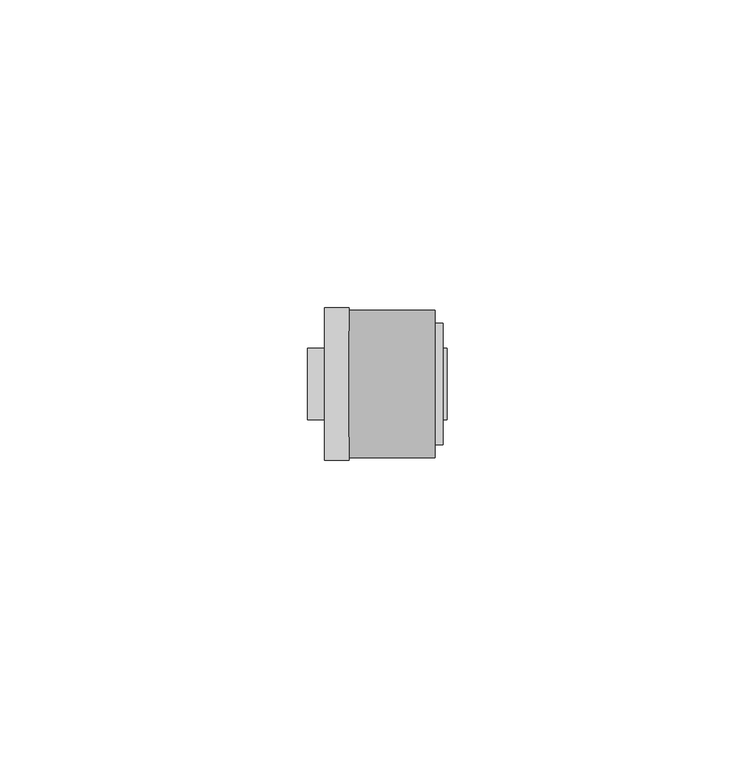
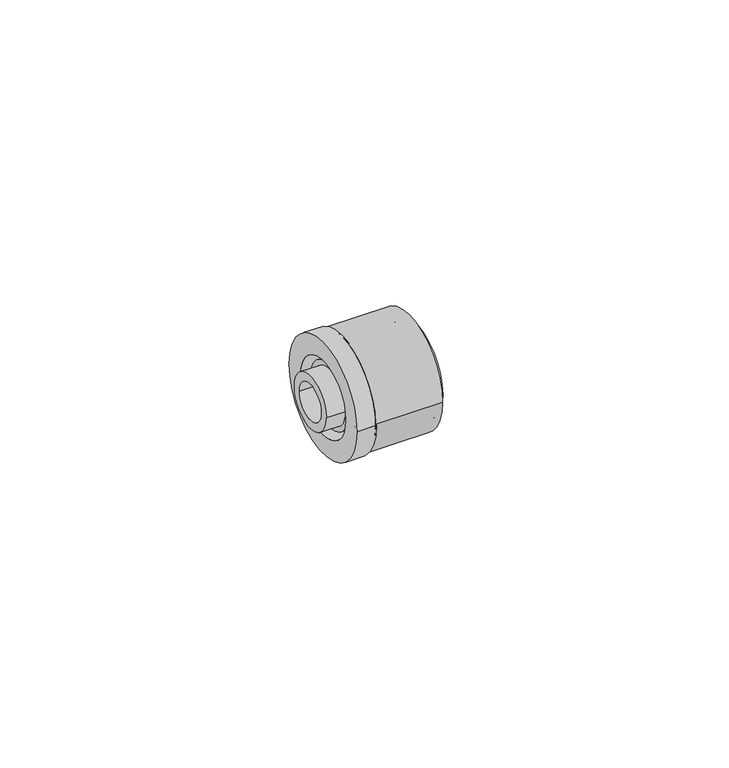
"""IFC4 building model written with IfcOpenShell, lengths in millimetres: pipe fitting geometry, FASTLOC_Blanking plug LX : FSL Bp LX CZ."""

import ifcopenshell
import ifcopenshell.guid

model = None  # the IFC model being written
_history = None  # IfcOwnerHistory: only IFC2X3 demands one
_inside = {}  # id of a spatial element -> (the spatial element, [elements in it])
_under = {}  # id of a project, library or spatial element -> (it, [spatial elements below it])
_declared = {}  # id of a project -> (the project, [libraries it declares])
_typed = {}  # id of a type object -> (the type object, [elements of that type])
_made_of = {}  # id of a material, layer set ... -> (it, [elements and type objects made of it])


def new_model(schema):
    """Start an empty IFC model of exactly this schema.

    Asked for "IFC4X3", IfcOpenShell would pick the latest addendum, in which some entities
    have other attributes; the version numbers below select the first issue.
    IFC2X3 requires an IfcOwnerHistory on every rooted entity: one is made here for all.
    """
    global model, _history
    if schema == "IFC4X3":
        model = ifcopenshell.file(schema_version=(4, 3, 0, 0))
    else:
        model = ifcopenshell.file(schema=schema)
    _inside.clear()
    _under.clear()
    _declared.clear()
    _typed.clear()
    _made_of.clear()
    _history = None
    if model.schema == "IFC2X3":
        org = make("IfcOrganization", Name="unknown")
        user = make(
            "IfcPersonAndOrganization",
            ThePerson=make("IfcPerson", FamilyName="unknown"),
            TheOrganization=org,
        )
        app = make(
            "IfcApplication",
            ApplicationDeveloper=org,
            Version="unknown",
            ApplicationFullName="unknown",
            ApplicationIdentifier="unknown",
        )
        _history = make(
            "IfcOwnerHistory",
            OwningUser=user,
            OwningApplication=app,
            ChangeAction="ADDED",
            CreationDate=0,
        )
    return model


def make(cls, **values):
    """One entity of the class cls with the attributes given. An attribute that is None is left unset."""
    return model.create_entity(
        cls, **{name: value for name, value in values.items() if value is not None}
    )


def rooted(cls, **values):
    """An entity with a GlobalId (a new one), such as an element, a storey or a relation."""
    return make(cls, GlobalId=ifcopenshell.guid.new(), OwnerHistory=_history, **values)


def si_unit(unit_type, name, prefix=None):
    """IfcSIUnit, for example si_unit("LENGTHUNIT", "METRE", prefix="MILLI")."""
    return make("IfcSIUnit", UnitType=unit_type, Prefix=prefix, Name=name)


def assignment(units):
    """IfcUnitAssignment: the units of a project."""
    return None if units is None else make("IfcUnitAssignment", Units=units)


def point(xyz):
    """IfcCartesianPoint."""
    return None if xyz is None else make("IfcCartesianPoint", Coordinates=xyz)


def direction(xyz):
    """IfcDirection."""
    return None if xyz is None else make("IfcDirection", DirectionRatios=xyz)


def frame(location, z_axis=None, x_axis=None):
    """IfcAxis2Placement3D, a coordinate frame: its origin and axes. An axis left out is left unset."""
    return make(
        "IfcAxis2Placement3D",
        Location=point(location),
        Axis=direction(z_axis),
        RefDirection=direction(x_axis),
    )


def frame_2d(location, x_axis=None):
    """IfcAxis2Placement2D, a coordinate frame in the plane: its origin and x axis."""
    return make(
        "IfcAxis2Placement2D", Location=point(location), RefDirection=direction(x_axis)
    )


def origin():
    """The frame at (0, 0, 0) with its axes left unset."""
    return frame((0.0, 0.0, 0.0))


def origin_2d():
    """The frame at (0, 0) in the plane with its x axis left unset."""
    return frame_2d((0.0, 0.0))


def place(relative_to, where):
    """IfcLocalPlacement: puts the frame where relative to a parent placement (None: the world)."""
    return make(
        "IfcLocalPlacement", PlacementRelTo=relative_to, RelativePlacement=where
    )


def context(
    kind, dimensions, precision=None, world=None, true_north=None, identifier=None
):
    """IfcGeometricRepresentationContext, for example the 3D "Model" context."""
    return make(
        "IfcGeometricRepresentationContext",
        ContextIdentifier=identifier,
        ContextType=kind,
        CoordinateSpaceDimension=dimensions,
        Precision=precision,
        WorldCoordinateSystem=world,
        TrueNorth=true_north,
    )


def project(units=None, contexts=None):
    """IfcProject with its units and contexts."""
    return rooted(
        "IfcProject",
        Name="project",
        RepresentationContexts=contexts,
        UnitsInContext=assignment(units),
    )


def spatial(cls, under=None, at=None, **own):
    """A site, building, storey or space (cls), placed at a placement, below another one or the project."""
    s = rooted(cls, ObjectPlacement=at, **own)
    if under is not None:
        _under.setdefault(under.id(), (under, []))[1].append(s)
    return s


def polyline(points):
    """IfcPolyline through the points."""
    return make("IfcPolyline", Points=[point(p) for p in points])


def circle_curve(where, radius):
    """IfcCircle in the frame where."""
    return make("IfcCircle", Position=where, Radius=radius)


def trimmed(basis, trim1, trim2, sense, master):
    """IfcTrimmedCurve: the piece of a basis curve between two trims."""
    return make(
        "IfcTrimmedCurve",
        BasisCurve=basis,
        Trim1=trim1,
        Trim2=trim2,
        SenseAgreement=sense,
        MasterRepresentation=master,
    )


def segment(curve, same_sense, transition):
    """IfcCompositeCurveSegment."""
    return make(
        "IfcCompositeCurveSegment",
        Transition=transition,
        SameSense=same_sense,
        ParentCurve=curve,
    )


def composite_curve(segments, self_intersect=None):
    """IfcCompositeCurve: segments joined end to end."""
    return make("IfcCompositeCurve", Segments=segments, SelfIntersect=self_intersect)


def outline(outer, holes=None, kind="AREA"):
    """IfcArbitraryClosedProfileDef: a profile drawn as a closed curve; with holes, ...WithVoids."""
    if holes is None:
        return make("IfcArbitraryClosedProfileDef", ProfileType=kind, OuterCurve=outer)
    return make(
        "IfcArbitraryProfileDefWithVoids",
        ProfileType=kind,
        OuterCurve=outer,
        InnerCurves=holes,
    )


def extrude(swept, where, along, depth):
    """IfcExtrudedAreaSolid: the profile swept, set in the frame where, extruded along a direction by depth."""
    return make(
        "IfcExtrudedAreaSolid",
        SweptArea=swept,
        Position=where,
        ExtrudedDirection=direction(along),
        Depth=depth,
    )


def shape(context_of_items, identifier, shape_type, items):
    """IfcShapeRepresentation: the items that make up one representation, for example the "Body"."""
    return make(
        "IfcShapeRepresentation",
        ContextOfItems=context_of_items,
        RepresentationIdentifier=identifier,
        RepresentationType=shape_type,
        Items=items,
    )


def source(mapping_origin, context_of_items, identifier, shape_type, items):
    """IfcRepresentationMap: a shape defined once, which mapped items show again and again."""
    return make(
        "IfcRepresentationMap",
        MappingOrigin=mapping_origin,
        MappedRepresentation=shape(context_of_items, identifier, shape_type, items),
    )


def transform(
    local_origin,
    x_axis=None,
    y_axis=None,
    z_axis=None,
    scale=None,
    scale2=None,
    scale3=None,
    uniform=True,
):
    """IfcCartesianTransformationOperator3D, or its non-uniform kind. x_axis, y_axis, z_axis: its Axis1, 2, 3."""
    if uniform:
        return make(
            "IfcCartesianTransformationOperator3D",
            Axis1=direction(x_axis),
            Axis2=direction(y_axis),
            LocalOrigin=point(local_origin),
            Scale=scale,
            Axis3=direction(z_axis),
        )
    return make(
        "IfcCartesianTransformationOperator3DnonUniform",
        Axis1=direction(x_axis),
        Axis2=direction(y_axis),
        LocalOrigin=point(local_origin),
        Scale=scale,
        Axis3=direction(z_axis),
        Scale2=scale2,
        Scale3=scale3,
    )


def mapped(mapping_source, mapping_target):
    """IfcMappedItem: shows the shape of a source again, moved by a transform."""
    return make(
        "IfcMappedItem", MappingSource=mapping_source, MappingTarget=mapping_target
    )


def made_of(thing, what):
    """Note that an element or type object is made of a material, layer set ...; save() writes the relation."""
    if what is not None:
        _made_of.setdefault(what.id(), (what, []))[1].append(thing)
    return thing


def element(
    cls,
    number,
    at=None,
    inside=None,
    cuts=None,
    type_object=None,
    material=None,
    context=None,
    identifier="Body",
    shape_type=None,
    held_by="IfcProductDefinitionShape",
    body=None,
    shapes=None,
    **own,
):
    """One element of the class cls, such as IfcWall. Its Tag is "e" and its number.

    at: its placement. inside: the storey or other place that contains it. cuts: it is an
    opening in that element (IfcRelVoidsElement). A single representation is given by context,
    identifier, shape_type and body (its items); several are given by shapes. held_by: the class
    of the entity that holds the representations. save() writes the other relations.
    """
    e = rooted(cls, Tag="e%d" % number, ObjectPlacement=at, **own)
    if body is not None:
        shapes = [shape(context, identifier, shape_type, body)]
    if shapes is not None:
        e.Representation = make(held_by, Representations=shapes)
    if inside is not None:
        _inside.setdefault(inside.id(), (inside, []))[1].append(e)
    if cuts is not None:
        rooted(
            "IfcRelVoidsElement", RelatingBuildingElement=cuts, RelatedOpeningElement=e
        )
    if type_object is not None:
        _typed.setdefault(type_object.id(), (type_object, []))[1].append(e)
    return made_of(e, material)


def aggregate(whole, parts):
    """IfcRelAggregates: a whole, such as a stair, and the parts it consists of."""
    return rooted("IfcRelAggregates", RelatingObject=whole, RelatedObjects=parts)


def save(model, path):
    """Write the relations noted so far, then the file.

    IfcRelAggregates (storeys below a building ...), IfcRelContainedInSpatialStructure (elements
    in a storey), IfcRelDefinesByType, IfcRelAssociatesMaterial and IfcRelDeclares: one each for
    every whole, place, type object, material and project.
    """
    for whole, parts in _under.values():
        aggregate(whole, parts)
    for where, things in _inside.values():
        rooted(
            "IfcRelContainedInSpatialStructure",
            RelatedElements=things,
            RelatingStructure=where,
        )
    for kind, things in _typed.values():
        rooted("IfcRelDefinesByType", RelatedObjects=things, RelatingType=kind)
    for what, things in _made_of.values():
        rooted("IfcRelAssociatesMaterial", RelatedObjects=things, RelatingMaterial=what)
    for by, libraries in _declared.values():
        rooted("IfcRelDeclares", RelatingContext=by, RelatedDefinitions=libraries)
    model.write(path)


def plane_surface(at):
    """IfcPlane: the flat surface through the origin of the frame at, square to its z axis."""
    return make("IfcPlane", Position=at)


def cylinder_surface(at, radius):
    """IfcCylindricalSurface: all points at the distance radius from the z axis of the frame at."""
    return make("IfcCylindricalSurface", Position=at, Radius=radius)


def revolved_surface(curve, axis_point, axis_direction):
    """IfcSurfaceOfRevolution: the curve turned about the line through axis_point along axis_direction."""
    return make(
        "IfcSurfaceOfRevolution",
        SweptCurve=make("IfcArbitraryOpenProfileDef", ProfileType="CURVE", Curve=curve),
        AxisPosition=make("IfcAxis1Placement", Location=point(axis_point), Axis=direction(axis_direction)),
    )


def advanced_brep(points, edges, surfaces, faces):
    """IfcAdvancedBrep: a solid bounded by faces that lie on surfaces and meet in shared edges.

    An edge is (start, end): straight between two places in points (the first is 0);
    or (start, end, curve); or (start, end, curve, False) where it runs against its curve.
    A face is (place in surfaces, loops), or (place, loops, False) where it looks against
    its surface's normal. A loop lists edges by number (the first is 1), with a minus sign
    where the edge is run from its end to its start. The first loop is the outer one.
    """
    corners = [point(p) for p in points]
    vertices = [make("IfcVertexPoint", VertexGeometry=c) for c in corners]
    made = []
    for start, end, *more in edges:
        made.append(
            make(
                "IfcEdgeCurve",
                EdgeStart=vertices[start],
                EdgeEnd=vertices[end],
                EdgeGeometry=more[0] if more else make("IfcPolyline", Points=[corners[start], corners[end]]),
                SameSense=more[1] if len(more) > 1 else True,
            )
        )
    hull = []
    for where, loops, *sense in faces:
        bounds = []
        for j, loop in enumerate(loops):
            ring = [make("IfcOrientedEdge", EdgeElement=made[abs(k) - 1], Orientation=k > 0) for k in loop]
            bounds.append(
                make(
                    "IfcFaceOuterBound" if j == 0 else "IfcFaceBound",
                    Bound=make("IfcEdgeLoop", EdgeList=ring),
                    Orientation=True,
                )
            )
        hull.append(make("IfcAdvancedFace", Bounds=bounds, FaceSurface=surfaces[where], SameSense=sense[0] if sense else True))
    return make("IfcAdvancedBrep", Outer=make("IfcClosedShell", CfsFaces=hull))


def pipe_fitting_ec6341fa(model_context):
    return source(origin(), model_context, "Body", "SolidModel", [
        extrude(outline(composite_curve([segment(trimmed(circle_curve(origin_2d(), 12.0), [point((-12.0, 0.0))], [point((12.0, 0.0))], False, "CARTESIAN"), True, "CONTINUOUS"), segment(trimmed(circle_curve(origin_2d(), 12.0), [point((12.0, 0.0))], [point((-12.0, 0.0))], False, "CARTESIAN"), True, "CONTINUOUS")], self_intersect=False), holes=[composite_curve([segment(trimmed(circle_curve(origin_2d(), 8.85), [point((-8.85, 0.0))], [point((8.85, 0.0))], True, "CARTESIAN"), True, "CONTINUOUS"), segment(trimmed(circle_curve(origin_2d(), 8.85), [point((8.85, 0.0))], [point((-8.85, 0.0))], True, "CARTESIAN"), True, "CONTINUOUS")], self_intersect=False)]), frame((6.7, 0.0, 0.0), z_axis=(1.0, 0.0, 0.0), x_axis=(0.0, 1.0, 0.0)), (0.0, 0.0, 1.0), 14.0),
        advanced_brep(
        [(6.7, 12.35, 0.0), (6.7, -12.35, 0.0), (2.7, -12.35, 0.0), (2.7, 12.35, 0.0), (22.0, 9.85, 0.0), (22.0, -9.85, 0.0), (6.7, -9.85, 0.0), (6.7, 9.85, 0.0), (2.7, 8.15, 0.0), (2.7, -8.15, 0.0), (22.0, -8.15, 0.0), (22.0, 8.15, 0.0)],
        [
            (0, 1, circle_curve(frame((6.7, 0.0, 0.0), z_axis=(-1.0, 0.0, 0.0), x_axis=(0.0, -1.0, 0.0)), 12.35)),
            (1, 2),
            (2, 3, circle_curve(frame((2.7, 0.0, 0.0), z_axis=(1.0, 0.0, 0.0), x_axis=(0.0, -1.0, 0.0)), 12.35)),
            (3, 0),
            (4, 5, circle_curve(frame((22.0, 0.0, 0.0), z_axis=(-1.0, 0.0, 0.0), x_axis=(0.0, -1.0, 0.0)), 9.85)),
            (5, 6),
            (6, 7, circle_curve(frame((6.7, 0.0, 0.0), z_axis=(1.0, 0.0, 0.0), x_axis=(0.0, -1.0, 0.0)), 9.85)),
            (7, 4),
            (8, 9, circle_curve(frame((2.7, 0.0, 0.0), z_axis=(-1.0, 0.0, 0.0), x_axis=(0.0, -1.0, 0.0)), 8.15)),
            (9, 10),
            (10, 11, circle_curve(frame((22.0, 0.0, 0.0), z_axis=(1.0, 0.0, 0.0), x_axis=(0.0, -1.0, 0.0)), 8.15)),
            (11, 8),
            (1, 0, circle_curve(frame((6.7, 0.0, 0.0), z_axis=(-1.0, 0.0, 0.0), x_axis=(0.0, 1.0, 0.0)), 12.35)),
            (3, 2, circle_curve(frame((2.7, 0.0, 0.0), z_axis=(1.0, 0.0, 0.0), x_axis=(0.0, 1.0, 0.0)), 12.35)),
            (6, 7, circle_curve(frame((6.7, 0.0, 0.0), z_axis=(-1.0, 0.0, 0.0), x_axis=(0.0, 1.0, 0.0)), 9.85)),
            (5, 4, circle_curve(frame((22.0, 0.0, 0.0), z_axis=(-1.0, 0.0, 0.0), x_axis=(0.0, 1.0, 0.0)), 9.85)),
            (10, 11, circle_curve(frame((22.0, 0.0, 0.0), z_axis=(-1.0, 0.0, 0.0), x_axis=(0.0, 1.0, 0.0)), 8.15)),
            (9, 8, circle_curve(frame((2.7, 0.0, 0.0), z_axis=(-1.0, 0.0, 0.0), x_axis=(0.0, 1.0, 0.0)), 8.15)),
        ],
        [
            cylinder_surface(frame((2.7, 0.0, 0.0), z_axis=(1.0, 0.0, 0.0), x_axis=(0.0, -1.0, 0.0)), 12.35),
            cylinder_surface(frame((2.7, 0.0, 0.0), z_axis=(1.0, 0.0, 0.0), x_axis=(0.0, -1.0, 0.0)), 9.85),
            revolved_surface(polyline([(22.0, -8.15, 0.0), (2.7, -8.15, 0.0)]), (2.7, 0.0, 0.0), (1.0, 0.0, 0.0)),
            cylinder_surface(frame((2.7, 0.0, 0.0), z_axis=(1.0, 0.0, 0.0), x_axis=(0.0, 1.0, 0.0)), 12.35),
            plane_surface(frame((6.7, 0.0, 0.0), z_axis=(1.0, 0.0, 0.0), x_axis=(0.0, 1.0, 0.0))),
            cylinder_surface(frame((2.7, 0.0, 0.0), z_axis=(1.0, 0.0, 0.0), x_axis=(0.0, 1.0, 0.0)), 9.85),
            plane_surface(frame((22.0, 0.0, 0.0), z_axis=(1.0, 0.0, 0.0), x_axis=(0.0, 1.0, 0.0))),
            revolved_surface(polyline([(22.0, 8.15, 0.0), (2.7, 8.15, 0.0)]), (2.7, 0.0, 0.0), (1.0, 0.0, 0.0)),
            plane_surface(frame((2.7, 0.0, 0.0), z_axis=(-1.0, 0.0, 0.0), x_axis=(0.0, 1.0, 0.0))),
        ],
        [
            (0, [[1, 2, 3, 4]]),
            (1, [[5, 6, 7, 8]]),
            (2, [[9, 10, 11, 12]]),
            (3, [[13, -4, 14, -2]]),
            (4, [[-13, -1], [15, -7]]),
            (5, [[16, -8, -15, -6]]),
            (6, [[-16, -5], [17, -11]]),
            (7, [[18, -12, -17, -10]]),
            (8, [[-14, -3], [-18, -9]]),
        ],
    ),
        advanced_brep(
        [(0.0, 3.95, 0.0), (0.0, -3.95, 0.0), (22.6, -3.95, 0.0), (22.6, 3.95, 0.0), (4.0, 5.8, 0.0), (4.0, -5.8, 0.0), (0.0, -5.8, 0.0), (0.0, 5.8, 0.0), (6.7, 6.9, 0.0), (6.7, -6.9, 0.0), (4.0, -6.9, 0.0), (4.0, 6.9, 0.0), (22.6, 5.8, 0.0), (22.6, -5.8, 0.0), (6.7, -5.8, 0.0), (6.7, 5.8, 0.0)],
        [
            (0, 1, circle_curve(frame((0.0, 0.0, 0.0), z_axis=(-1.0, 0.0, 0.0), x_axis=(0.0, -1.0, 0.0)), 3.95)),
            (1, 2),
            (2, 3, circle_curve(frame((22.6, 0.0, 0.0), z_axis=(1.0, 0.0, 0.0), x_axis=(0.0, -1.0, 0.0)), 3.95)),
            (3, 0),
            (4, 5, circle_curve(frame((4.0, 0.0, 0.0), z_axis=(-1.0, 0.0, 0.0), x_axis=(0.0, -1.0, 0.0)), 5.8)),
            (5, 6),
            (6, 7, circle_curve(frame((0.0, 0.0, 0.0), z_axis=(1.0, 0.0, 0.0), x_axis=(0.0, -1.0, 0.0)), 5.8)),
            (7, 4),
            (8, 9, circle_curve(frame((6.7, 0.0, 0.0), z_axis=(-1.0, 0.0, 0.0), x_axis=(0.0, -1.0, 0.0)), 6.9)),
            (9, 10),
            (10, 11, circle_curve(frame((4.0, 0.0, 0.0), z_axis=(1.0, 0.0, 0.0), x_axis=(0.0, -1.0, 0.0)), 6.9)),
            (11, 8),
            (12, 13, circle_curve(frame((22.6, 0.0, 0.0), z_axis=(-1.0, 0.0, 0.0), x_axis=(0.0, -1.0, 0.0)), 5.8)),
            (13, 14),
            (14, 15, circle_curve(frame((6.7, 0.0, 0.0), z_axis=(1.0, 0.0, 0.0), x_axis=(0.0, -1.0, 0.0)), 5.8)),
            (15, 12),
            (1, 0, circle_curve(frame((0.0, 0.0, 0.0), z_axis=(-1.0, 0.0, 0.0), x_axis=(0.0, 1.0, 0.0)), 3.95)),
            (3, 2, circle_curve(frame((22.6, 0.0, 0.0), z_axis=(1.0, 0.0, 0.0), x_axis=(0.0, 1.0, 0.0)), 3.95)),
            (6, 7, circle_curve(frame((0.0, 0.0, 0.0), z_axis=(-1.0, 0.0, 0.0), x_axis=(0.0, 1.0, 0.0)), 5.8)),
            (5, 4, circle_curve(frame((4.0, 0.0, 0.0), z_axis=(-1.0, 0.0, 0.0), x_axis=(0.0, 1.0, 0.0)), 5.8)),
            (10, 11, circle_curve(frame((4.0, 0.0, 0.0), z_axis=(-1.0, 0.0, 0.0), x_axis=(0.0, 1.0, 0.0)), 6.9)),
            (9, 8, circle_curve(frame((6.7, 0.0, 0.0), z_axis=(-1.0, 0.0, 0.0), x_axis=(0.0, 1.0, 0.0)), 6.9)),
            (14, 15, circle_curve(frame((6.7, 0.0, 0.0), z_axis=(-1.0, 0.0, 0.0), x_axis=(0.0, 1.0, 0.0)), 5.8)),
            (13, 12, circle_curve(frame((22.6, 0.0, 0.0), z_axis=(-1.0, 0.0, 0.0), x_axis=(0.0, 1.0, 0.0)), 5.8)),
        ],
        [
            revolved_surface(polyline([(22.6, -3.95, 0.0), (0.0, -3.95, 0.0)]), (0.0, 0.0, 0.0), (1.0, 0.0, 0.0)),
            cylinder_surface(frame((0.0, 0.0, 0.0), z_axis=(1.0, 0.0, 0.0), x_axis=(0.0, -1.0, 0.0)), 5.8),
            cylinder_surface(frame((0.0, 0.0, 0.0), z_axis=(1.0, 0.0, 0.0), x_axis=(0.0, -1.0, 0.0)), 6.9),
            revolved_surface(polyline([(22.6, 3.95, 0.0), (0.0, 3.95, 0.0)]), (0.0, 0.0, 0.0), (1.0, 0.0, 0.0)),
            plane_surface(frame((0.0, 0.0, 0.0), z_axis=(-1.0, 0.0, 0.0), x_axis=(0.0, 1.0, 0.0))),
            cylinder_surface(frame((0.0, 0.0, 0.0), z_axis=(1.0, 0.0, 0.0), x_axis=(0.0, 1.0, 0.0)), 5.8),
            plane_surface(frame((4.0, 0.0, 0.0), z_axis=(-1.0, 0.0, 0.0), x_axis=(0.0, 1.0, 0.0))),
            cylinder_surface(frame((0.0, 0.0, 0.0), z_axis=(1.0, 0.0, 0.0), x_axis=(0.0, 1.0, 0.0)), 6.9),
            plane_surface(frame((6.7, 0.0, 0.0), z_axis=(1.0, 0.0, 0.0), x_axis=(0.0, 1.0, 0.0))),
            plane_surface(frame((22.6, 0.0, 0.0), z_axis=(1.0, 0.0, 0.0), x_axis=(0.0, 1.0, 0.0))),
        ],
        [
            (0, [[1, 2, 3, 4]]),
            (1, [[5, 6, 7, 8]]),
            (2, [[9, 10, 11, 12]]),
            (1, [[13, 14, 15, 16]]),
            (3, [[17, -4, 18, -2]]),
            (4, [[19, -7], [-17, -1]]),
            (5, [[20, -8, -19, -6]]),
            (6, [[21, -11], [-20, -5]]),
            (7, [[22, -12, -21, -10]]),
            (8, [[-22, -9], [23, -15]]),
            (5, [[24, -16, -23, -14]]),
            (9, [[-24, -13], [-18, -3]]),
        ],
    ),
    ])


if __name__ == "__main__":
    model = new_model("IFC4")
    model_context = context("Model", 3, world=origin())
    ifc_project = project(units=[si_unit("LENGTHUNIT", "METRE", prefix="MILLI")], contexts=[model_context])
    site = spatial("IfcSite", under=ifc_project)
    building = spatial("IfcBuilding", under=site)
    placement = place(None, origin())
    pipe_fitting_shape = pipe_fitting_ec6341fa(model_context)
    element("IfcPipeFitting", 1, ObjectType="FASTLOC_Blanking plug LX : FSL Bp LX CZ", at=placement, inside=building, context=model_context, shape_type="MappedRepresentation", body=[
        mapped(pipe_fitting_shape, transform((0.0, 0.0, 0.0), x_axis=(1.0, 0.0, 0.0), y_axis=(0.0, 1.0, 0.0), z_axis=(0.0, 0.0, 1.0))),
    ])
    save(model, "model.ifc")
